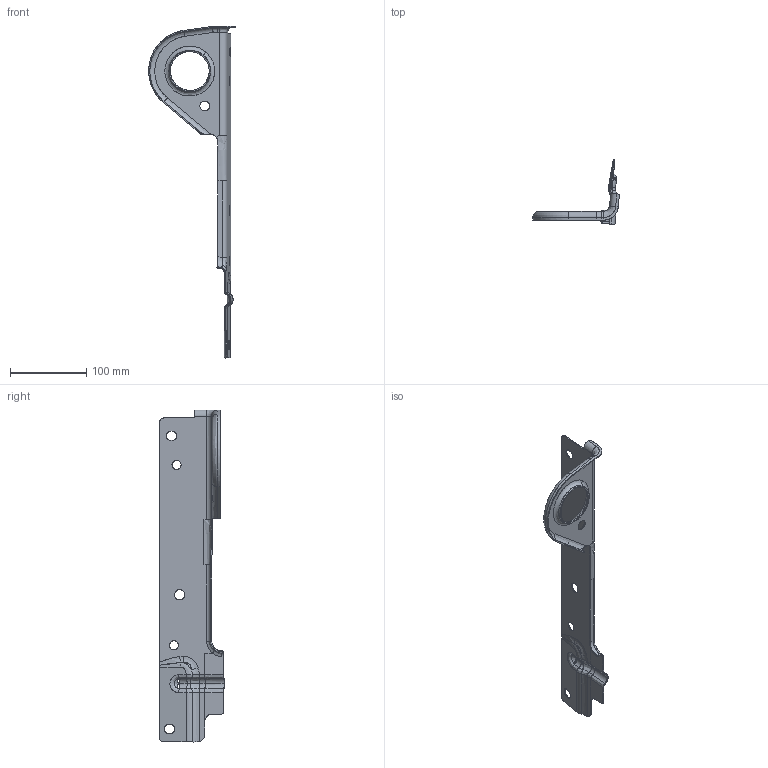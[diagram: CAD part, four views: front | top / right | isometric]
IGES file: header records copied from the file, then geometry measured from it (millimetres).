
Global section: file name: C:\Projects\McNeel\Training\V5 Level 2\Level 2\Corrections\Check_02.igs; native system: Rhinoceros ( Feb 19 2013 ); preprocessor: Trout Lake IGES 012 Feb 19 2013; date: 130220.231523; units: millimetre
Bounding box: 113.72 x 84.65 x 436.16 mm (x, y, z)
Surface area: 88013 mm2 (no closed solid volume)
Topology: 0 solids, 0 shells, 171 faces, 1466 edges, 1461 vertices
Faces by surface type: bspline 171
